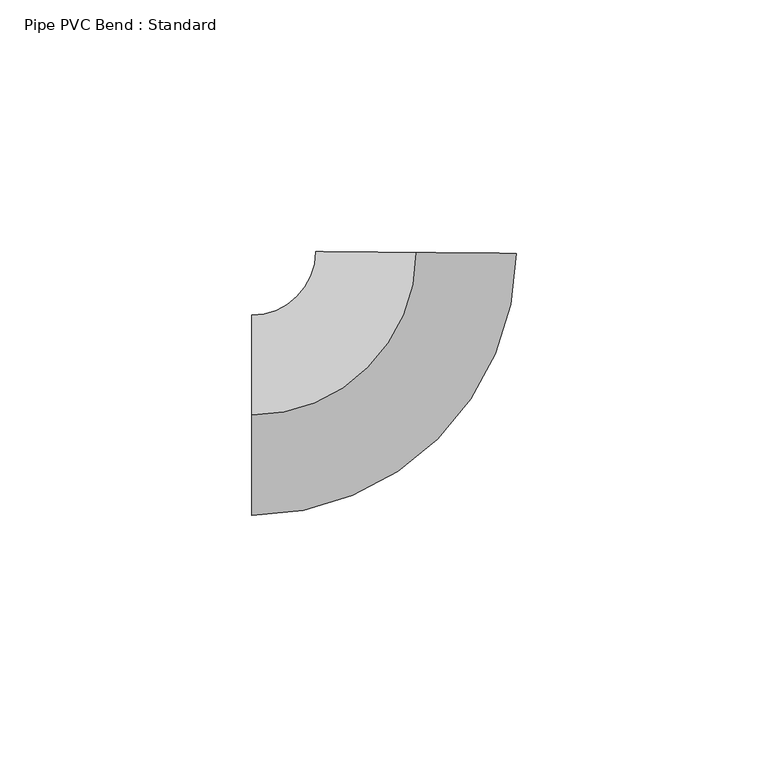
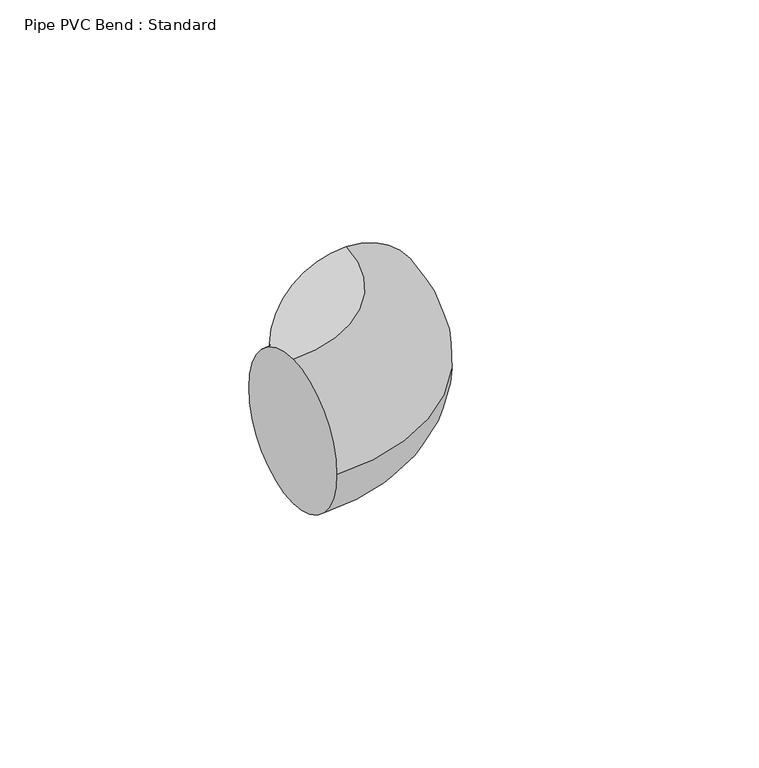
"""IFC4 building model written with IfcOpenShell, lengths in millimetres: pipe fitting geometry, Pipe PVC Bend : Standard."""

from ifc_helpers import new_model, si_unit, point, frame, origin, place, context, project, spatial, circle_curve, ellipse_curve, trimmed, source, transform, mapped, element, save
from ifc_brep_helpers import plane_surface, revolved_surface, advanced_brep


def pipe_pvc_bend_standard_45fed27a(model_context):
    return source(origin(), model_context, "Body", "AdvancedBrep", [
        advanced_brep(
        [(-32.292112, 0.0, 19.8755), (-32.292112, 19.8755, 0.0), (-32.292112, 0.0, -19.8755), (-32.292112, -19.8755, 0.0), (0.2821446, 32.2908794, 19.8755), (20.1568859, 32.117222, 0.0), (0.2821446, 32.2908794, -19.8755), (-19.5925968, 32.4645368, 0.0)],
        [
            (0, 1, circle_curve(frame((-32.292112, 0.0, 0.0), z_axis=(-1.0, 0.0, 0.0), x_axis=(0.0, 1.0, 0.0)), 19.8755)),
            (1, 2, circle_curve(frame((-32.292112, 0.0, 0.0), z_axis=(-1.0, 0.0, 0.0), x_axis=(0.0, 1.0, 0.0)), 19.8755)),
            (2, 3, circle_curve(frame((-32.292112, 0.0, 0.0), z_axis=(-1.0, 0.0, 0.0), x_axis=(0.0, 1.0, 0.0)), 19.8755)),
            (3, 0, circle_curve(frame((-32.292112, 0.0, 0.0), z_axis=(-1.0, 0.0, 0.0), x_axis=(0.0, 1.0, 0.0)), 19.8755)),
            (4, 5, circle_curve(frame((0.2821446, 32.2908794, 0.0), z_axis=(0.00873725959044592, 0.999961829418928, 0.0), x_axis=(-0.999961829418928, 0.00873725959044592, 0.0)), 19.8755)),
            (5, 6, circle_curve(frame((0.2821446, 32.2908794, 0.0), z_axis=(0.00873725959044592, 0.999961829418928, 0.0), x_axis=(-0.999961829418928, 0.00873725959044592, 0.0)), 19.8755)),
            (6, 7, circle_curve(frame((0.2821446, 32.2908794, 0.0), z_axis=(0.00873725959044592, 0.999961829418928, 0.0), x_axis=(-0.999961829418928, 0.00873725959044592, 0.0)), 19.8755)),
            (7, 4, circle_curve(frame((0.2821446, 32.2908794, 0.0), z_axis=(0.00873725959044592, 0.999961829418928, 0.0), x_axis=(-0.999961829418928, 0.00873725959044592, 0.0)), 19.8755)),
            (7, 1, circle_curve(frame((-32.292112, 32.5755, 0.0), z_axis=(0.0, 0.0, -1.0), x_axis=(0.0, -1.0, 0.0)), 12.7)),
            (0, 4, circle_curve(frame((-32.292112, 32.5755, 19.8755), z_axis=(0.0, 0.0, 1.0), x_axis=(0.0, -1.0, 0.0)), 32.5755)),
            (6, 2, circle_curve(frame((-32.292112, 32.5755, -19.8755), z_axis=(0.0, 0.0, -1.0), x_axis=(0.0, -1.0, 0.0)), 32.5755)),
            (5, 3, circle_curve(frame((-32.292112, 32.5755, 0.0), z_axis=(0.0, 0.0, -1.0), x_axis=(0.0, -1.0, 0.0)), 52.451)),
        ],
        [
            plane_surface(frame((-32.292112, 0.0, 0.0), z_axis=(-1.0, 0.0, 0.0), x_axis=(0.0, 0.0, 1.0))),
            plane_surface(frame((0.2821446, 32.2908794, 0.0), z_axis=(0.008737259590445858, 0.999961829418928, 0.0), x_axis=(0.0, 0.0, 1.0))),
            revolved_surface(trimmed(ellipse_curve(frame((-32.292112, 0.0, 0.0), z_axis=(-1.0, 0.0, 0.0), x_axis=(0.0, 1.0, 0.0)), 19.8755, 19.8755), [point((-32.292112, 0.0, 19.8755))], [point((-32.292112, 19.8755, 0.0))], True, "CARTESIAN"), (-32.292112, 32.5755, 0.0), (0.0, 0.0, 1.0)),
            revolved_surface(trimmed(ellipse_curve(frame((-32.292112, 0.0, 0.0), z_axis=(-1.0, 0.0, 0.0), x_axis=(0.0, 1.0, 0.0)), 19.8755, 19.8755), [point((-32.292112, 19.8755, 0.0))], [point((-32.292112, 0.0, -19.8755))], True, "CARTESIAN"), (-32.292112, 32.5755, 0.0), (0.0, 0.0, 1.0)),
            revolved_surface(trimmed(ellipse_curve(frame((-32.292112, 0.0, 0.0), z_axis=(-1.0, 0.0, 0.0), x_axis=(0.0, 1.0, 0.0)), 19.8755, 19.8755), [point((-32.292112, 0.0, -19.8755))], [point((-32.292112, -19.8755, 0.0))], True, "CARTESIAN"), (-32.292112, 32.5755, 0.0), (0.0, 0.0, 1.0)),
            revolved_surface(trimmed(ellipse_curve(frame((-32.292112, 0.0, 0.0), z_axis=(-1.0, 0.0, 0.0), x_axis=(0.0, 1.0, 0.0)), 19.8755, 19.8755), [point((-32.292112, -19.8755, 0.0))], [point((-32.292112, 0.0, 19.8755))], True, "CARTESIAN"), (-32.292112, 32.5755, 0.0), (0.0, 0.0, 1.0)),
        ],
        [
            (0, [[1, 2, 3, 4]]),
            (1, [[5, 6, 7, 8]]),
            (2, [[9, -1, 10, -8]]),
            (3, [[11, -2, -9, -7]]),
            (4, [[12, -3, -11, -6]]),
            (5, [[-10, -4, -12, -5]]),
        ],
    ),
        advanced_brep(
        [(-32.292112, 0.0, 19.8755), (-32.292112, 19.8755, 0.0), (-32.292112, 0.0, -19.8755), (-32.292112, -19.8755, 0.0), (0.2821446, 32.2908794, 19.8755), (20.1568859, 32.117222, 0.0), (0.2821446, 32.2908794, -19.8755), (-19.5925968, 32.4645368, 0.0)],
        [
            (0, 1, circle_curve(frame((-32.292112, 0.0, 0.0), z_axis=(-1.0, 0.0, 0.0), x_axis=(0.0, 1.0, 0.0)), 19.8755)),
            (1, 2, circle_curve(frame((-32.292112, 0.0, 0.0), z_axis=(-1.0, 0.0, 0.0), x_axis=(0.0, 1.0, 0.0)), 19.8755)),
            (2, 3, circle_curve(frame((-32.292112, 0.0, 0.0), z_axis=(-1.0, 0.0, 0.0), x_axis=(0.0, 1.0, 0.0)), 19.8755)),
            (3, 0, circle_curve(frame((-32.292112, 0.0, 0.0), z_axis=(-1.0, 0.0, 0.0), x_axis=(0.0, 1.0, 0.0)), 19.8755)),
            (4, 5, circle_curve(frame((0.2821446, 32.2908794, 0.0), z_axis=(0.00873725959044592, 0.999961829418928, 0.0), x_axis=(-0.999961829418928, 0.00873725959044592, 0.0)), 19.8755)),
            (5, 6, circle_curve(frame((0.2821446, 32.2908794, 0.0), z_axis=(0.00873725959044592, 0.999961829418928, 0.0), x_axis=(-0.999961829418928, 0.00873725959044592, 0.0)), 19.8755)),
            (6, 7, circle_curve(frame((0.2821446, 32.2908794, 0.0), z_axis=(0.00873725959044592, 0.999961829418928, 0.0), x_axis=(-0.999961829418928, 0.00873725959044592, 0.0)), 19.8755)),
            (7, 4, circle_curve(frame((0.2821446, 32.2908794, 0.0), z_axis=(0.00873725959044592, 0.999961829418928, 0.0), x_axis=(-0.999961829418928, 0.00873725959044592, 0.0)), 19.8755)),
            (7, 1, circle_curve(frame((-32.292112, 32.5755, 0.0), z_axis=(0.0, 0.0, -1.0), x_axis=(0.0, -1.0, 0.0)), 12.7)),
            (0, 4, circle_curve(frame((-32.292112, 32.5755, 19.8755), z_axis=(0.0, 0.0, 1.0), x_axis=(0.0, -1.0, 0.0)), 32.5755)),
            (6, 2, circle_curve(frame((-32.292112, 32.5755, -19.8755), z_axis=(0.0, 0.0, -1.0), x_axis=(0.0, -1.0, 0.0)), 32.5755)),
            (5, 3, circle_curve(frame((-32.292112, 32.5755, 0.0), z_axis=(0.0, 0.0, -1.0), x_axis=(0.0, -1.0, 0.0)), 52.451)),
        ],
        [
            plane_surface(frame((-32.292112, 0.0, 0.0), z_axis=(-1.0, 0.0, 0.0), x_axis=(0.0, 0.0, 1.0))),
            plane_surface(frame((0.2821446, 32.2908794, 0.0), z_axis=(0.008737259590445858, 0.999961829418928, 0.0), x_axis=(0.0, 0.0, 1.0))),
            revolved_surface(trimmed(ellipse_curve(frame((-32.292112, 0.0, 0.0), z_axis=(-1.0, 0.0, 0.0), x_axis=(0.0, 1.0, 0.0)), 19.8755, 19.8755), [point((-32.292112, 0.0, 19.8755))], [point((-32.292112, 19.8755, 0.0))], True, "CARTESIAN"), (-32.292112, 32.5755, 0.0), (0.0, 0.0, 1.0)),
            revolved_surface(trimmed(ellipse_curve(frame((-32.292112, 0.0, 0.0), z_axis=(-1.0, 0.0, 0.0), x_axis=(0.0, 1.0, 0.0)), 19.8755, 19.8755), [point((-32.292112, 19.8755, 0.0))], [point((-32.292112, 0.0, -19.8755))], True, "CARTESIAN"), (-32.292112, 32.5755, 0.0), (0.0, 0.0, 1.0)),
            revolved_surface(trimmed(ellipse_curve(frame((-32.292112, 0.0, 0.0), z_axis=(-1.0, 0.0, 0.0), x_axis=(0.0, 1.0, 0.0)), 19.8755, 19.8755), [point((-32.292112, 0.0, -19.8755))], [point((-32.292112, -19.8755, 0.0))], True, "CARTESIAN"), (-32.292112, 32.5755, 0.0), (0.0, 0.0, 1.0)),
            revolved_surface(trimmed(ellipse_curve(frame((-32.292112, 0.0, 0.0), z_axis=(-1.0, 0.0, 0.0), x_axis=(0.0, 1.0, 0.0)), 19.8755, 19.8755), [point((-32.292112, -19.8755, 0.0))], [point((-32.292112, 0.0, 19.8755))], True, "CARTESIAN"), (-32.292112, 32.5755, 0.0), (0.0, 0.0, 1.0)),
        ],
        [
            (0, [[1, 2, 3, 4]]),
            (1, [[5, 6, 7, 8]]),
            (2, [[9, -1, 10, -8]]),
            (3, [[11, -2, -9, -7]]),
            (4, [[12, -3, -11, -6]]),
            (5, [[-10, -4, -12, -5]]),
        ],
    ),
    ])


if __name__ == "__main__":
    model = new_model("IFC4")
    model_context = context("Model", 3, world=origin())
    ifc_project = project(units=[si_unit("LENGTHUNIT", "METRE", prefix="MILLI")], contexts=[model_context])
    site = spatial("IfcSite", under=ifc_project)
    building = spatial("IfcBuilding", under=site)
    placement = place(None, origin())
    pipe_pvc_bend_standard_shape = pipe_pvc_bend_standard_45fed27a(model_context)
    element("IfcPipeFitting", 1, ObjectType="Pipe PVC Bend : Standard", at=placement, inside=building, context=model_context, shape_type="MappedRepresentation", body=[
        mapped(pipe_pvc_bend_standard_shape, transform((0.0, 0.0, 0.0), x_axis=(1.0, 0.0, 0.0), y_axis=(0.0, 1.0, 0.0), z_axis=(0.0, 0.0, 1.0))),
    ])
    save(model, "model.ifc")
